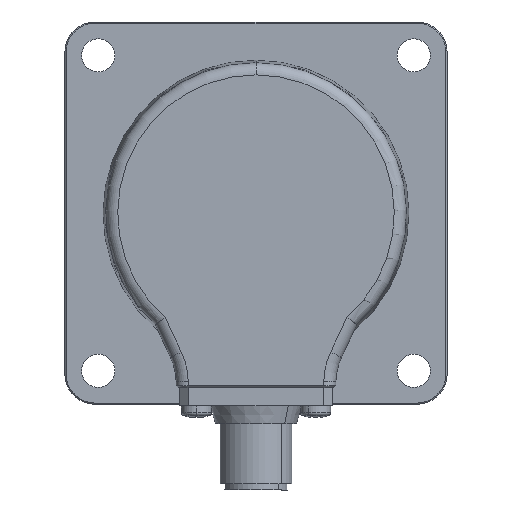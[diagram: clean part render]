
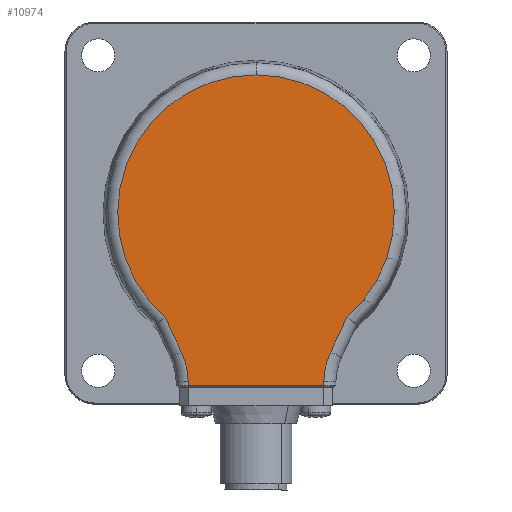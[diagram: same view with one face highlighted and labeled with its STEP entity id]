
A CAD part, left-side view. The second image highlights one B-rep face of the part: STEP entity #10974.
In plain terms, the highlighted planar face has unit normal (-1, 0, 0).
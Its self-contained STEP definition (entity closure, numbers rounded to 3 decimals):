
#683 = VERTEX_POINT ( 'NONE', #13882 ) ;
#684 = VERTEX_POINT ( 'NONE', #13876 ) ;
#685 = EDGE_CURVE ( 'NONE', #684, #683, #13945, .T. ) ;
#10972 = EDGE_LOOP ( 'NONE', ( #11049, #11787, #11780, #11785, #11737, #11716, #11718, #11719, #11723 ) ) ;
#10974 = ADVANCED_FACE ( 'NONE', ( #18206 ), #18243, .F. ) ;
#11049 = ORIENTED_EDGE ( 'NONE', *, *, #11782, .T. ) ;
#11716 = ORIENTED_EDGE ( 'NONE', *, *, #11720, .T. ) ;
#11717 = VERTEX_POINT ( 'NONE', #20958 ) ;
#11718 = ORIENTED_EDGE ( 'NONE', *, *, #685, .T. ) ;
#11719 = ORIENTED_EDGE ( 'NONE', *, *, #11722, .T. ) ;
#11720 = EDGE_CURVE ( 'NONE', #11740, #684, #20957, .T. ) ;
#11721 = EDGE_CURVE ( 'NONE', #11717, #11784, #20952, .T. ) ;
#11722 = EDGE_CURVE ( 'NONE', #683, #11717, #20946, .T. ) ;
#11723 = ORIENTED_EDGE ( 'NONE', *, *, #11721, .T. ) ;
#11737 = ORIENTED_EDGE ( 'NONE', *, *, #11739, .T. ) ;
#11739 = EDGE_CURVE ( 'NONE', #11741, #11740, #21006, .T. ) ;
#11740 = VERTEX_POINT ( 'NONE', #21002 ) ;
#11741 = VERTEX_POINT ( 'NONE', #21001 ) ;
#11780 = ORIENTED_EDGE ( 'NONE', *, *, #11783, .T. ) ;
#11781 = VERTEX_POINT ( 'NONE', #21157 ) ;
#11782 = EDGE_CURVE ( 'NONE', #11784, #11788, #21156, .T. ) ;
#11783 = EDGE_CURVE ( 'NONE', #11790, #11781, #21152, .T. ) ;
#11784 = VERTEX_POINT ( 'NONE', #21148 ) ;
#11785 = ORIENTED_EDGE ( 'NONE', *, *, #11786, .T. ) ;
#11786 = EDGE_CURVE ( 'NONE', #11781, #11741, #21144, .T. ) ;
#11787 = ORIENTED_EDGE ( 'NONE', *, *, #11789, .T. ) ;
#11788 = VERTEX_POINT ( 'NONE', #21145 ) ;
#11789 = EDGE_CURVE ( 'NONE', #11788, #11790, #21138, .T. ) ;
#11790 = VERTEX_POINT ( 'NONE', #21134 ) ;
#13876 = CARTESIAN_POINT ( 'NONE',  ( -21., 0., 22.972 ) ) ;
#13882 = CARTESIAN_POINT ( 'NONE',  ( -21., 15.091, -17.32 ) ) ;
#13941 = DIRECTION ( 'NONE',  ( 0., 0., 1. ) ) ;
#13942 = DIRECTION ( 'NONE',  ( -1., 0., 0. ) ) ;
#13943 = CARTESIAN_POINT ( 'NONE',  ( -21., 0., 0. ) ) ;
#13944 = AXIS2_PLACEMENT_3D ( 'NONE', #13943, #13942, #13941 ) ;
#13945 = CIRCLE ( 'NONE', #13944, 22.972 ) ;
#18206 = FACE_OUTER_BOUND ( 'NONE', #10972, .T. ) ;
#18238 = DIRECTION ( 'NONE',  ( 0., 0., 1. ) ) ;
#18239 = DIRECTION ( 'NONE',  ( 1., 0., 0. ) ) ;
#18240 = CARTESIAN_POINT ( 'NONE',  ( -21., 0., 0. ) ) ;
#18241 = AXIS2_PLACEMENT_3D ( 'NONE', #18240, #18239, #18238 ) ;
#18243 = PLANE ( 'NONE',  #18241 ) ;
#20943 = DIRECTION ( 'NONE',  ( 0., -0.423, -0.906 ) ) ;
#20944 = VECTOR ( 'NONE', #20943, 1000. ) ;
#20945 = CARTESIAN_POINT ( 'NONE',  ( -21., 12.39, -23.112 ) ) ;
#20946 = LINE ( 'NONE', #20945, #20944 ) ;
#20948 = DIRECTION ( 'NONE',  ( 0., 0., 1. ) ) ;
#20949 = DIRECTION ( 'NONE',  ( 1., 0., 0. ) ) ;
#20950 = CARTESIAN_POINT ( 'NONE',  ( -21., 23.266, -28.183 ) ) ;
#20951 = AXIS2_PLACEMENT_3D ( 'NONE', #20950, #20949, #20948 ) ;
#20952 = CIRCLE ( 'NONE', #20951, 12. ) ;
#20953 = DIRECTION ( 'NONE',  ( 0., 0., 1. ) ) ;
#20954 = DIRECTION ( 'NONE',  ( -1., 0., 0. ) ) ;
#20955 = CARTESIAN_POINT ( 'NONE',  ( -21., 0., 0. ) ) ;
#20956 = AXIS2_PLACEMENT_3D ( 'NONE', #20955, #20954, #20953 ) ;
#20957 = CIRCLE ( 'NONE', #20956, 22.972 ) ;
#20958 = CARTESIAN_POINT ( 'NONE',  ( -21., 12.39, -23.112 ) ) ;
#21001 = CARTESIAN_POINT ( 'NONE',  ( -21., -12.39, -23.112 ) ) ;
#21002 = CARTESIAN_POINT ( 'NONE',  ( -21., -15.091, -17.32 ) ) ;
#21003 = DIRECTION ( 'NONE',  ( 0., -0.423, 0.906 ) ) ;
#21004 = VECTOR ( 'NONE', #21003, 1000. ) ;
#21005 = CARTESIAN_POINT ( 'NONE',  ( -21., -14.953, -17.615 ) ) ;
#21006 = LINE ( 'NONE', #21005, #21004 ) ;
#21134 = CARTESIAN_POINT ( 'NONE',  ( -21., -11.255, -28.695 ) ) ;
#21135 = DIRECTION ( 'NONE',  ( 0., -1., 0. ) ) ;
#21136 = VECTOR ( 'NONE', #21135, 1000. ) ;
#21137 = CARTESIAN_POINT ( 'NONE',  ( -21., -11.25, -28.695 ) ) ;
#21138 = LINE ( 'NONE', #21137, #21136 ) ;
#21140 = DIRECTION ( 'NONE',  ( 0., 0., 1. ) ) ;
#21141 = DIRECTION ( 'NONE',  ( 1., 0., 0. ) ) ;
#21142 = CARTESIAN_POINT ( 'NONE',  ( -21., -23.266, -28.183 ) ) ;
#21143 = AXIS2_PLACEMENT_3D ( 'NONE', #21142, #21141, #21140 ) ;
#21144 = CIRCLE ( 'NONE', #21143, 12. ) ;
#21145 = CARTESIAN_POINT ( 'NONE',  ( -21., 11.255, -28.695 ) ) ;
#21148 = CARTESIAN_POINT ( 'NONE',  ( -21., 11.268, -27.974 ) ) ;
#21149 = DIRECTION ( 'NONE',  ( 0., -0.017, 1. ) ) ;
#21150 = VECTOR ( 'NONE', #21149, 1000. ) ;
#21151 = CARTESIAN_POINT ( 'NONE',  ( -21., -11.752, -0.205 ) ) ;
#21152 = LINE ( 'NONE', #21151, #21150 ) ;
#21153 = DIRECTION ( 'NONE',  ( 0., -0.017, -1. ) ) ;
#21154 = VECTOR ( 'NONE', #21153, 1000. ) ;
#21155 = CARTESIAN_POINT ( 'NONE',  ( -21., 11.752, -0.205 ) ) ;
#21156 = LINE ( 'NONE', #21155, #21154 ) ;
#21157 = CARTESIAN_POINT ( 'NONE',  ( -21., -11.268, -27.974 ) ) ;
